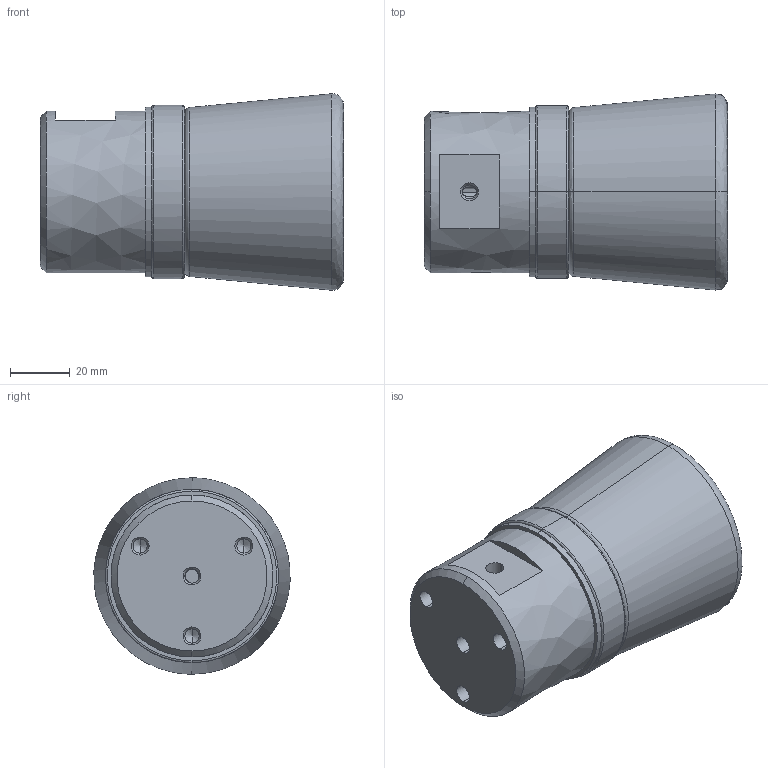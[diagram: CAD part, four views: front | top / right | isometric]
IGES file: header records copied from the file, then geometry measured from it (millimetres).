
Start section: ------------------------------------------------------------------------
Global section: file name: D:\ICADMX\tmp\trans3d_spg\TGMX25.1844.RBP055TCA_23413.igs; native system: spGate; preprocessor: ver11.3.7; author: Unknown; organization: Unknown; date: 150330.151333; units: millimetre
Bounding box: 101 x 65.37 x 65.49 mm (x, y, z)
Volume: 253981.2 mm3; surface area: 27446.3 mm2
Topology: 1 solids, 1 shells, 69 faces, 146 edges, 81 vertices
Faces by surface type: bspline 69
